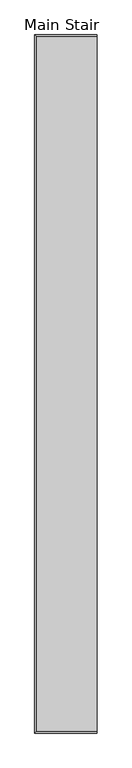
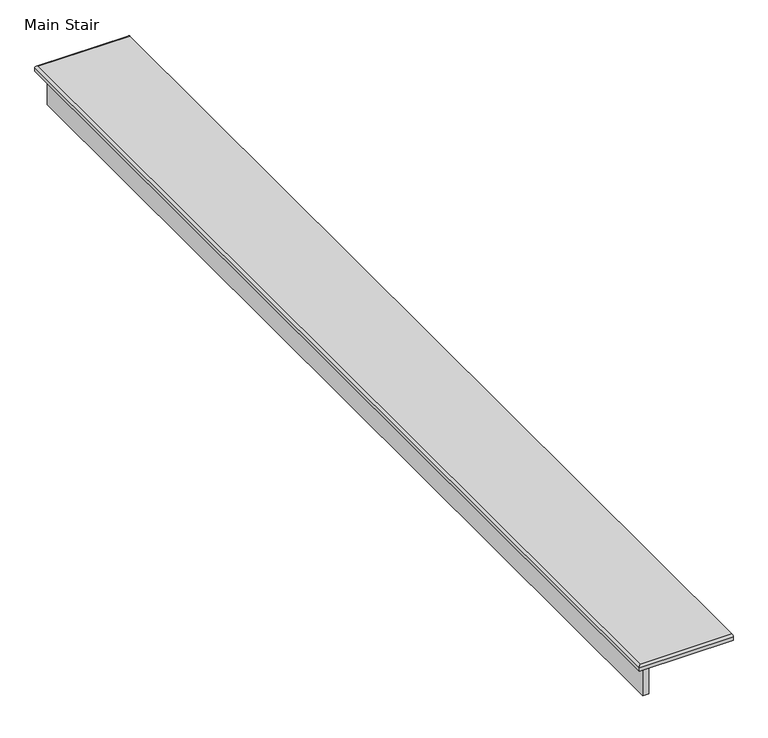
"""IFC4 building model written with IfcOpenShell, lengths in millimetres: stair flight geometry, Main Stair."""

from ifc_helpers import new_model, si_unit, frame, origin, place, context, project, spatial, circle_curve, ellipse_curve, faceted_brep, source, transform, mapped, element, save
from ifc_brep_helpers import plane_surface, cylinder_surface, advanced_brep


def main_stair_254e6857(model_context):
    return source(origin(), model_context, "Body", "SolidModel", [
        advanced_brep(
        [(8235.3288706, -13343.1939898, -82.0928), (8235.3288706, -13336.8439898, -75.7428), (7936.8788706, -13336.8439898, -75.7428), (7930.5288706, -13343.1939898, -82.0928), (8235.3288706, -13343.1939898, -94.7928), (7930.5288706, -13343.1939898, -94.7928), (7936.8788706, -9945.9439898, -75.7428), (7930.5288706, -9939.5939898, -82.0928), (7930.5288706, -9939.5939898, -94.7928), (8235.3288706, -9945.9439898, -75.7428), (8235.3288706, -9939.5939898, -82.0928), (8235.3288706, -9939.5939898, -94.7928)],
        [
            (0, 1, circle_curve(frame((8235.3288706, -13336.8439898, -82.0928), z_axis=(-1.0, 0.0, 0.0), x_axis=(0.0, 1.0, 0.0)), 6.35)),
            (1, 2),
            (2, 3, ellipse_curve(frame((7936.8788706, -13336.8439898, -82.0928), z_axis=(0.7071067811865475, -0.7071067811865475, 0.0), x_axis=(0.7071067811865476, 0.7071067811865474, 0.0)), 8.9802561, 6.35)),
            (3, 0),
            (4, 0),
            (3, 5),
            (5, 4),
            (2, 6),
            (6, 7, ellipse_curve(frame((7936.8788706, -9945.9439898, -82.0928), z_axis=(-0.7071067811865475, -0.7071067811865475, 0.0), x_axis=(0.7071067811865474, -0.7071067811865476, 0.0)), 8.9802561, 6.35)),
            (7, 3),
            (7, 8),
            (8, 5),
            (6, 9),
            (9, 10, circle_curve(frame((8235.3288706, -9945.9439898, -82.0928), z_axis=(-1.0, 0.0, 0.0), x_axis=(0.0, -1.0, 0.0)), 6.35)),
            (10, 7),
            (10, 11),
            (11, 8),
            (1, 9),
            (11, 4),
        ],
        [
            cylinder_surface(frame((8235.3288706, -13336.8439898, -82.0928), z_axis=(1.0, 0.0, 0.0), x_axis=(0.0, 1.0, 0.0)), 6.35),
            plane_surface(frame((8235.3288706, -13343.1939898, -82.0928), z_axis=(0.0, -1.0, 0.0), x_axis=(-1.0, 0.0, 0.0))),
            cylinder_surface(frame((7936.8788706, -13317.7939898, -82.0928), z_axis=(0.0, -1.0, 0.0), x_axis=(1.0, 0.0, 0.0)), 6.35),
            plane_surface(frame((7930.5288706, -13343.1939898, -82.0928), z_axis=(-1.0, 0.0, 0.0), x_axis=(0.0, 1.0, 0.0))),
            cylinder_surface(frame((7955.9288706, -9945.9439898, -82.0928), z_axis=(-1.0, 0.0, 0.0), x_axis=(0.0, -1.0, 0.0)), 6.35),
            plane_surface(frame((7930.5288706, -9939.5939898, -82.0928), z_axis=(0.0, 1.0, 0.0), x_axis=(1.0, 0.0, 0.0))),
            plane_surface(frame((7930.5288706, -9964.9939898, -75.7428), z_axis=(0.0, 0.0, 1.0), x_axis=(-1.0, 0.0, 0.0))),
            plane_surface(frame((7930.5288706, -9964.9939898, -94.7928), z_axis=(0.0, 0.0, -1.0), x_axis=(1.0, 0.0, 0.0))),
            plane_surface(frame((8235.3288706, -13317.7939898, -75.7428), z_axis=(1.0, 0.0, 0.0), x_axis=(0.0, 0.0, -1.0))),
        ],
        [
            (0, [[1, 2, 3, 4]]),
            (1, [[5, -4, 6, 7]]),
            (2, [[-3, 8, 9, 10]]),
            (3, [[-6, -10, 11, 12]]),
            (4, [[-9, 13, 14, 15]]),
            (5, [[-11, -15, 16, 17]]),
            (6, [[-13, -8, -2, 18]]),
            (7, [[-7, -12, -17, 19]]),
            (8, [[-18, -1, -5, -19, -16, -14]]),
        ],
    ),
        faceted_brep([(7955.9288706, -13317.7939898, -94.7928), (7955.9288706, -13317.7939898, -202.5904), (7974.9788706, -13317.7939898, -202.5904), (7974.9788706, -13317.7939898, -94.7928), (7955.9288706, -9964.9939898, -94.7928), (7974.9788706, -9964.9939898, -94.7928), (7974.9788706, -9964.9939898, -202.5904), (7955.9288706, -9964.9939898, -202.5904)], [[[0, 1, 2, 3]], [[4, 5, 6, 7]], [[1, 0, 4, 7]], [[2, 1, 7, 6]], [[3, 2, 6, 5]], [[0, 3, 5, 4]]]),
    ])


if __name__ == "__main__":
    model = new_model("IFC4")
    model_context = context("Model", 3, world=origin())
    ifc_project = project(units=[si_unit("LENGTHUNIT", "METRE", prefix="MILLI")], contexts=[model_context])
    site = spatial("IfcSite", under=ifc_project)
    building = spatial("IfcBuilding", under=site)
    placement = place(None, origin())
    main_stair_shape = main_stair_254e6857(model_context)
    element("IfcStairFlight", 1, ObjectType="Main Stair", at=placement, inside=building, context=model_context, shape_type="MappedRepresentation", body=[
        mapped(main_stair_shape, transform((0.0, 0.0, 0.0), x_axis=(1.0, 0.0, 0.0), y_axis=(0.0, 1.0, 0.0), z_axis=(0.0, 0.0, 1.0))),
    ])
    save(model, "model.ifc")
